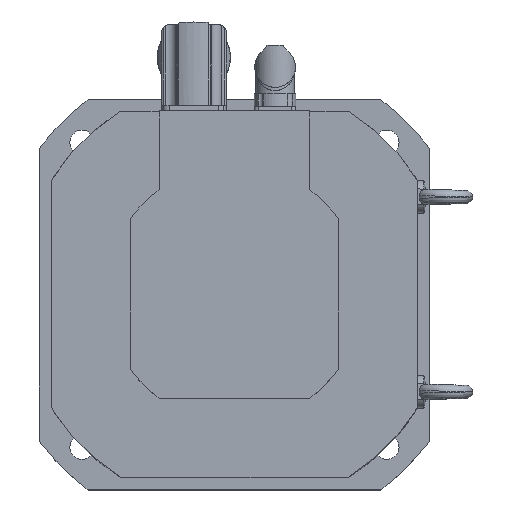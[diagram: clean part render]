
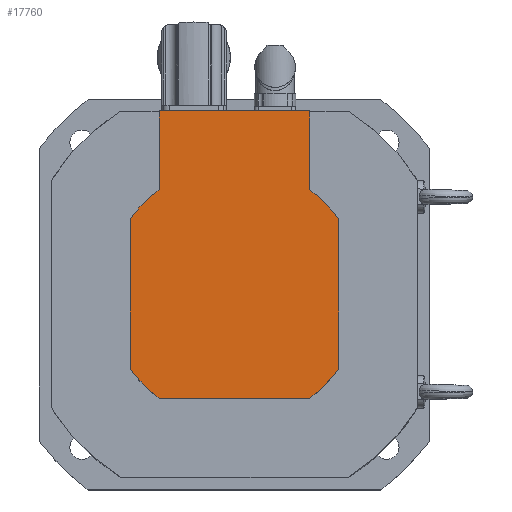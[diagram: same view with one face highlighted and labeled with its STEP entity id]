
A CAD part, top view. The second image highlights one B-rep face of the part: STEP entity #17760.
In plain terms, the highlighted planar face has unit normal (0, 0, 1).
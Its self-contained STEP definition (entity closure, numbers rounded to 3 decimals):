
#17324=CARTESIAN_POINT('',(64.,46.314,54.));
#17325=VERTEX_POINT('',#17324);
#17332=CARTESIAN_POINT('',(64.,-46.314,54.));
#17333=VERTEX_POINT('',#17332);
#17334=CARTESIAN_POINT('',(64.,-46.314,54.));
#17335=DIRECTION('',(0.0,1.0,0.0));
#17336=VECTOR('',#17335,92.628);
#17337=LINE('',#17334,#17336);
#17338=EDGE_CURVE('',#17333,#17325,#17337,.T.);
#17363=CARTESIAN_POINT('',(-64.,-46.314,54.));
#17364=VERTEX_POINT('',#17363);
#17371=CARTESIAN_POINT('',(-64.,46.314,54.));
#17372=VERTEX_POINT('',#17371);
#17373=CARTESIAN_POINT('',(-64.,46.314,54.));
#17374=DIRECTION('',(0.0,-1.0,0.0));
#17375=VECTOR('',#17374,92.628);
#17376=LINE('',#17373,#17375);
#17377=EDGE_CURVE('',#17372,#17364,#17376,.T.);
#17394=CARTESIAN_POINT('',(46.314,-64.,54.));
#17395=VERTEX_POINT('',#17394);
#17402=CARTESIAN_POINT('',(-46.314,-64.,54.));
#17403=VERTEX_POINT('',#17402);
#17404=CARTESIAN_POINT('',(-46.314,-64.,54.));
#17405=DIRECTION('',(1.0,0.0,0.0));
#17406=VECTOR('',#17405,92.628);
#17407=LINE('',#17404,#17406);
#17408=EDGE_CURVE('',#17403,#17395,#17407,.T.);
#17426=CARTESIAN_POINT('',(0.0,0.0,54.0));
#17427=DIRECTION('',(0.0,0.0,-1.0));
#17428=DIRECTION('',(-1.0,0.0,0.0));
#17429=AXIS2_PLACEMENT_3D('',#17426,#17427,#17428);
#17430=CIRCLE('',#17429,79.0);
#17431=EDGE_CURVE('',#17333,#17395,#17430,.T.);
#17445=CARTESIAN_POINT('',(46.314,64.0,54.));
#17446=VERTEX_POINT('',#17445);
#17453=CARTESIAN_POINT('',(0.0,0.0,54.0));
#17454=DIRECTION('',(0.0,0.0,-1.0));
#17455=DIRECTION('',(-1.0,0.0,0.0));
#17456=AXIS2_PLACEMENT_3D('',#17453,#17454,#17455);
#17457=CIRCLE('',#17456,79.0);
#17458=EDGE_CURVE('',#17446,#17325,#17457,.T.);
#17469=CARTESIAN_POINT('',(-46.314,64.0,54.));
#17470=VERTEX_POINT('',#17469);
#17471=CARTESIAN_POINT('',(0.0,0.0,54.0));
#17472=DIRECTION('',(0.0,0.0,-1.0));
#17473=DIRECTION('',(-1.0,0.0,0.0));
#17474=AXIS2_PLACEMENT_3D('',#17471,#17472,#17473);
#17475=CIRCLE('',#17474,79.0);
#17476=EDGE_CURVE('',#17372,#17470,#17475,.T.);
#17496=CARTESIAN_POINT('',(0.0,0.0,54.0));
#17497=DIRECTION('',(0.0,0.0,-1.0));
#17498=DIRECTION('',(-1.0,0.0,0.0));
#17499=AXIS2_PLACEMENT_3D('',#17496,#17497,#17498);
#17500=CIRCLE('',#17499,79.0);
#17501=EDGE_CURVE('',#17403,#17364,#17500,.T.);
#17512=CARTESIAN_POINT('',(-46.314,112.5,54.));
#17513=VERTEX_POINT('',#17512);
#17514=CARTESIAN_POINT('',(-46.314,64.0,54.));
#17515=DIRECTION('',(0.0,1.0,0.0));
#17516=VECTOR('',#17515,48.5);
#17517=LINE('',#17514,#17516);
#17518=EDGE_CURVE('',#17470,#17513,#17517,.T.);
#17537=CARTESIAN_POINT('',(46.314,112.5,54.));
#17538=VERTEX_POINT('',#17537);
#17545=CARTESIAN_POINT('',(46.314,64.0,54.));
#17546=DIRECTION('',(0.0,1.0,0.0));
#17547=VECTOR('',#17546,48.5);
#17548=LINE('',#17545,#17547);
#17549=EDGE_CURVE('',#17446,#17538,#17548,.T.);
#17738=CARTESIAN_POINT('',(64.,-64.,54.0));
#17739=DIRECTION('',(0.0,0.0,-1.0));
#17740=DIRECTION('',(-1.0,0.0,0.0));
#17741=AXIS2_PLACEMENT_3D('',#17738,#17739,#17740);
#17742=PLANE('',#17741);
#17743=ORIENTED_EDGE('',*,*,#17476,.F.);
#17744=ORIENTED_EDGE('',*,*,#17377,.T.);
#17745=ORIENTED_EDGE('',*,*,#17501,.F.);
#17746=ORIENTED_EDGE('',*,*,#17408,.T.);
#17747=ORIENTED_EDGE('',*,*,#17431,.F.);
#17748=ORIENTED_EDGE('',*,*,#17338,.T.);
#17749=ORIENTED_EDGE('',*,*,#17458,.F.);
#17750=ORIENTED_EDGE('',*,*,#17549,.T.);
#17751=CARTESIAN_POINT('',(-46.314,112.5,54.));
#17752=DIRECTION('',(1.0,0.0,0.0));
#17753=VECTOR('',#17752,92.628);
#17754=LINE('',#17751,#17753);
#17755=EDGE_CURVE('',#17513,#17538,#17754,.T.);
#17756=ORIENTED_EDGE('',*,*,#17755,.F.);
#17757=ORIENTED_EDGE('',*,*,#17518,.F.);
#17758=EDGE_LOOP('',(#17743,#17744,#17745,#17746,#17747,#17748,#17749,#17750,#17756,#17757));
#17759=FACE_OUTER_BOUND('',#17758,.T.);
#17760=ADVANCED_FACE('',(#17759),#17742,.F.);
